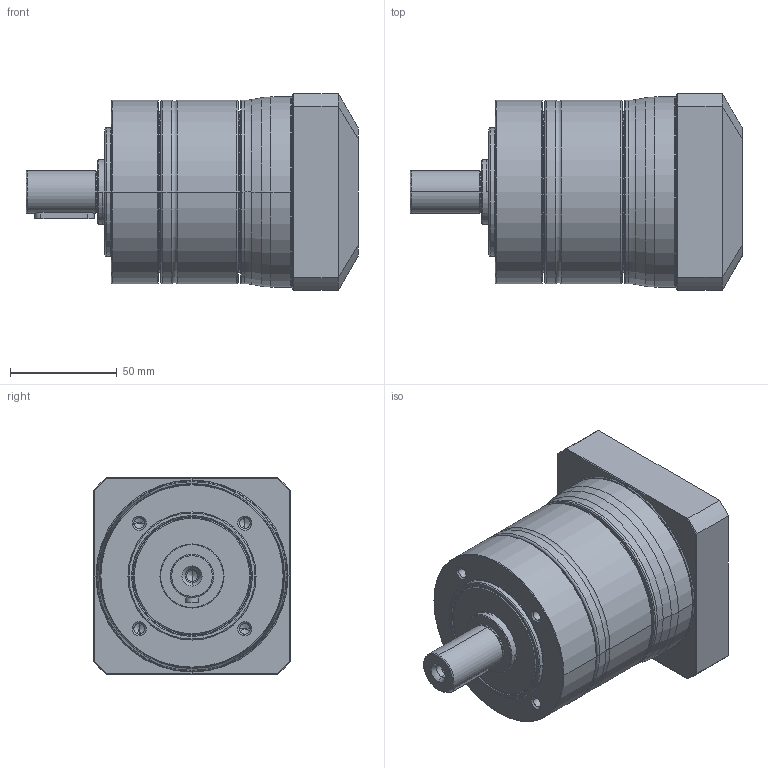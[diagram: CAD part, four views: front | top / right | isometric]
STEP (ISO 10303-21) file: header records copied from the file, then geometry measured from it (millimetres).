
FILE_DESCRIPTION((''),'2;1');
FILE_NAME('PG2-080_1ST_19-P0411400101_ASM','2016-04-11T',('d01943'),(''),'PRO/ENGINEER BY PARAMETRIC TECHNOLOGY CORPORATION, 2008410','PRO/ENGINEER BY PARAMETRIC TECHNOLOGY CORPORATION, 2008410','');
FILE_SCHEMA(('CONFIG_CONTROL_DESIGN'));
Length unit declared in the file: millimetre
Products named in the file (9): P1325310001; P0250300001; P1324300101; P0350301103; P0941301001; P0503400008; P0411400101; P1702500001; PG2-080_1ST_19-P0411400101_ASM
Assembly tree (8 placements, depth 2):
  PG2-080_1ST_19-P0411400101_ASM
    P1325310001
    P0250300001
    P1324300101
    P0350301103
    P0941301001
    P0503400008
    P0411400101
    P1702500001
Bounding box: 155.5 x 92 x 92 mm (x, y, z)
Volume: 576987.5 mm3; surface area: 135466.1 mm2
Topology: 8 solids, 9 shells, 468 faces, 1031 edges, 593 vertices
Faces by surface type: cone 142, cylinder 137, torus 92, plane 79, bspline 18
Entity records: 17616 total; most frequent: CARTESIAN_POINT 7094, DIRECTION 2393, ORIENTED_EDGE 1994, AXIS2_PLACEMENT_3D 1024, EDGE_CURVE 997, VERTEX_POINT 593, CIRCLE 557, EDGE_LOOP 532
